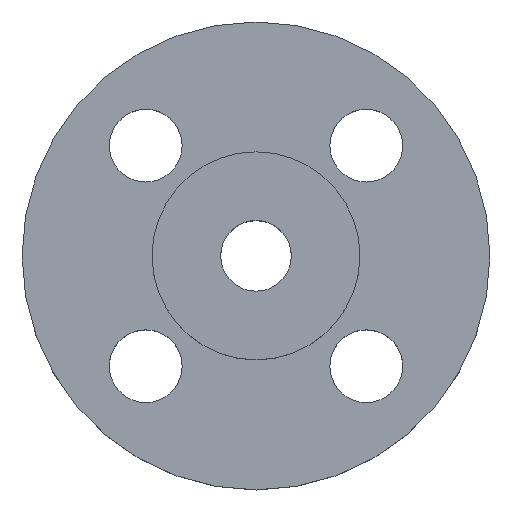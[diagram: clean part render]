
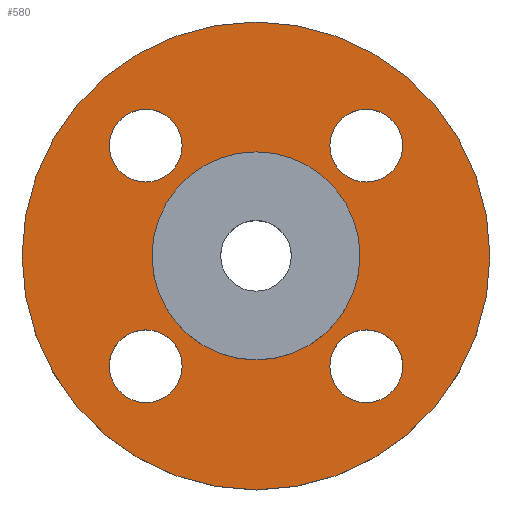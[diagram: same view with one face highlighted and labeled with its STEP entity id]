
A CAD part, top view. The second image highlights one B-rep face of the part: STEP entity #580.
In plain terms, the highlighted planar face has unit normal (0, 0, 1).
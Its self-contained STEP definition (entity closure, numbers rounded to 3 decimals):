
#23 = AXIS2_PLACEMENT_3D ( 'NONE', #320, #318, #317 ) ;
#24 = CIRCLE ( 'NONE', #23, 18.5 ) ;
#29 = CIRCLE ( 'NONE', #129, 7. ) ;
#50 = AXIS2_PLACEMENT_3D ( 'NONE', #97, #208, #207 ) ;
#54 = AXIS2_PLACEMENT_3D ( 'NONE', #350, #352, #332 ) ;
#58 = CIRCLE ( 'NONE', #54, 7. ) ;
#60 = AXIS2_PLACEMENT_3D ( 'NONE', #355, #356, #348 ) ;
#61 = CIRCLE ( 'NONE', #60, 7. ) ;
#62 = AXIS2_PLACEMENT_3D ( 'NONE', #479, #295, #430 ) ;
#65 = AXIS2_PLACEMENT_3D ( 'NONE', #358, #357, #354 ) ;
#68 = AXIS2_PLACEMENT_3D ( 'NONE', #126, #124, #123 ) ;
#69 = CIRCLE ( 'NONE', #68, 7. ) ;
#93 = CARTESIAN_POINT ( 'NONE',  ( 18.5, 0., 0. ) ) ;
#97 = CARTESIAN_POINT ( 'NONE',  ( 21.213, -21.213, 0. ) ) ;
#98 = DIRECTION ( 'NONE',  ( 1., 0., 0. ) ) ;
#99 = AXIS2_PLACEMENT_3D ( 'NONE', #119, #117, #98 ) ;
#117 = DIRECTION ( 'NONE',  ( 0., 0., 1. ) ) ;
#119 = CARTESIAN_POINT ( 'NONE',  ( 0., 0., 0. ) ) ;
#123 = DIRECTION ( 'NONE',  ( -1., 0., 0. ) ) ;
#124 = DIRECTION ( 'NONE',  ( 0., 0., -1. ) ) ;
#126 = CARTESIAN_POINT ( 'NONE',  ( 21.213, 21.213, 0. ) ) ;
#129 = AXIS2_PLACEMENT_3D ( 'NONE', #294, #757, #758 ) ;
#153 = CARTESIAN_POINT ( 'NONE',  ( -14.213, -21.213, 0. ) ) ;
#163 = CARTESIAN_POINT ( 'NONE',  ( -45., 0., 0. ) ) ;
#177 = CARTESIAN_POINT ( 'NONE',  ( 45., 0., 0. ) ) ;
#189 = EDGE_CURVE ( 'NONE', #618, #727, #305, .T. ) ;
#190 = CIRCLE ( 'NONE', #50, 7. ) ;
#207 = DIRECTION ( 'NONE',  ( -1., 0., 0. ) ) ;
#208 = DIRECTION ( 'NONE',  ( 0., 0., -1. ) ) ;
#219 = CARTESIAN_POINT ( 'NONE',  ( -28.213, 21.213, 0. ) ) ;
#223 = CARTESIAN_POINT ( 'NONE',  ( 28.213, -21.213, 0. ) ) ;
#230 = CARTESIAN_POINT ( 'NONE',  ( -14.213, 21.213, 0. ) ) ;
#236 = FACE_BOUND ( 'NONE', #611, .T. ) ;
#250 = CIRCLE ( 'NONE', #682, 7. ) ;
#256 = CARTESIAN_POINT ( 'NONE',  ( 28.213, 21.213, 0. ) ) ;
#258 = CARTESIAN_POINT ( 'NONE',  ( 14.213, 21.213, 0. ) ) ;
#264 = CIRCLE ( 'NONE', #328, 45. ) ;
#277 = CARTESIAN_POINT ( 'NONE',  ( -18.5, 0., 0. ) ) ;
#278 = CARTESIAN_POINT ( 'NONE',  ( -28.213, -21.213, 0. ) ) ;
#294 = CARTESIAN_POINT ( 'NONE',  ( -21.213, 21.213, 0. ) ) ;
#295 = DIRECTION ( 'NONE',  ( 0., 0., -1. ) ) ;
#299 = CIRCLE ( 'NONE', #99, 45. ) ;
#305 = CIRCLE ( 'NONE', #765, 18.5 ) ;
#316 = CIRCLE ( 'NONE', #327, 7. ) ;
#317 = DIRECTION ( 'NONE',  ( -1., 0., 0. ) ) ;
#318 = DIRECTION ( 'NONE',  ( 0., 0., -1. ) ) ;
#320 = CARTESIAN_POINT ( 'NONE',  ( 0., 0., 0. ) ) ;
#327 = AXIS2_PLACEMENT_3D ( 'NONE', #478, #435, #463 ) ;
#328 = AXIS2_PLACEMENT_3D ( 'NONE', #565, #899, #900 ) ;
#330 = CIRCLE ( 'NONE', #62, 7. ) ;
#332 = DIRECTION ( 'NONE',  ( -1., 0., 0. ) ) ;
#346 = EDGE_CURVE ( 'NONE', #774, #817, #264, .T. ) ;
#348 = DIRECTION ( 'NONE',  ( -1., 0., 0. ) ) ;
#350 = CARTESIAN_POINT ( 'NONE',  ( 21.213, 21.213, 0. ) ) ;
#352 = DIRECTION ( 'NONE',  ( 0., 0., -1. ) ) ;
#354 = DIRECTION ( 'NONE',  ( 1., 0., 0. ) ) ;
#355 = CARTESIAN_POINT ( 'NONE',  ( -21.213, -21.213, 0. ) ) ;
#356 = DIRECTION ( 'NONE',  ( 0., 0., -1. ) ) ;
#357 = DIRECTION ( 'NONE',  ( 0., 0., 1. ) ) ;
#358 = CARTESIAN_POINT ( 'NONE',  ( 0., 0., 0. ) ) ;
#360 = PLANE ( 'NONE',  #65 ) ;
#364 = FACE_OUTER_BOUND ( 'NONE', #603, .T. ) ;
#366 = FACE_BOUND ( 'NONE', #813, .T. ) ;
#367 = FACE_BOUND ( 'NONE', #820, .T. ) ;
#368 = FACE_BOUND ( 'NONE', #633, .T. ) ;
#397 = CARTESIAN_POINT ( 'NONE',  ( 14.213, -21.213, 0. ) ) ;
#401 = VERTEX_POINT ( 'NONE', #397 ) ;
#417 = CARTESIAN_POINT ( 'NONE',  ( 21.213, -21.213, 0. ) ) ;
#430 = DIRECTION ( 'NONE',  ( -1., 0., 0. ) ) ;
#433 = CARTESIAN_POINT ( 'NONE',  ( 0., 0., 0. ) ) ;
#435 = DIRECTION ( 'NONE',  ( 0., 0., -1. ) ) ;
#439 = DIRECTION ( 'NONE',  ( 0., 0., -1. ) ) ;
#441 = DIRECTION ( 'NONE',  ( -1., 0., 0. ) ) ;
#463 = DIRECTION ( 'NONE',  ( -1., 0., 0. ) ) ;
#478 = CARTESIAN_POINT ( 'NONE',  ( -21.213, 21.213, 0. ) ) ;
#479 = CARTESIAN_POINT ( 'NONE',  ( -21.213, -21.213, 0. ) ) ;
#483 = EDGE_CURVE ( 'NONE', #401, #656, #250, .T. ) ;
#491 = DIRECTION ( 'NONE',  ( -1., 0., 0. ) ) ;
#492 = DIRECTION ( 'NONE',  ( 0., 0., -1. ) ) ;
#523 = EDGE_CURVE ( 'NONE', #648, #661, #316, .T. ) ;
#535 = EDGE_CURVE ( 'NONE', #616, #828, #330, .T. ) ;
#565 = CARTESIAN_POINT ( 'NONE',  ( 0., 0., 0. ) ) ;
#579 = EDGE_CURVE ( 'NONE', #661, #648, #29, .T. ) ;
#580 = ADVANCED_FACE ( 'NONE', ( #759, #236, #368, #367, #366, #364 ), #360, .T. ) ;
#581 = EDGE_CURVE ( 'NONE', #828, #616, #61, .T. ) ;
#583 = EDGE_CURVE ( 'NONE', #628, #630, #58, .T. ) ;
#584 = EDGE_CURVE ( 'NONE', #727, #618, #24, .T. ) ;
#603 = EDGE_LOOP ( 'NONE', ( #694, #695 ) ) ;
#611 = EDGE_LOOP ( 'NONE', ( #685, #687 ) ) ;
#616 = VERTEX_POINT ( 'NONE', #278 ) ;
#618 = VERTEX_POINT ( 'NONE', #277 ) ;
#628 = VERTEX_POINT ( 'NONE', #256 ) ;
#630 = VERTEX_POINT ( 'NONE', #258 ) ;
#633 = EDGE_LOOP ( 'NONE', ( #688, #689 ) ) ;
#639 = EDGE_LOOP ( 'NONE', ( #683, #684 ) ) ;
#648 = VERTEX_POINT ( 'NONE', #230 ) ;
#656 = VERTEX_POINT ( 'NONE', #223 ) ;
#661 = VERTEX_POINT ( 'NONE', #219 ) ;
#682 = AXIS2_PLACEMENT_3D ( 'NONE', #417, #492, #491 ) ;
#683 = ORIENTED_EDGE ( 'NONE', *, *, #725, .T. ) ;
#684 = ORIENTED_EDGE ( 'NONE', *, *, #483, .T. ) ;
#685 = ORIENTED_EDGE ( 'NONE', *, *, #581, .T. ) ;
#687 = ORIENTED_EDGE ( 'NONE', *, *, #535, .T. ) ;
#688 = ORIENTED_EDGE ( 'NONE', *, *, #523, .T. ) ;
#689 = ORIENTED_EDGE ( 'NONE', *, *, #579, .T. ) ;
#690 = ORIENTED_EDGE ( 'NONE', *, *, #583, .T. ) ;
#691 = ORIENTED_EDGE ( 'NONE', *, *, #710, .T. ) ;
#692 = ORIENTED_EDGE ( 'NONE', *, *, #584, .T. ) ;
#693 = ORIENTED_EDGE ( 'NONE', *, *, #189, .T. ) ;
#694 = ORIENTED_EDGE ( 'NONE', *, *, #346, .T. ) ;
#695 = ORIENTED_EDGE ( 'NONE', *, *, #719, .T. ) ;
#710 = EDGE_CURVE ( 'NONE', #630, #628, #69, .T. ) ;
#719 = EDGE_CURVE ( 'NONE', #817, #774, #299, .T. ) ;
#725 = EDGE_CURVE ( 'NONE', #656, #401, #190, .T. ) ;
#727 = VERTEX_POINT ( 'NONE', #93 ) ;
#757 = DIRECTION ( 'NONE',  ( 0., 0., -1. ) ) ;
#758 = DIRECTION ( 'NONE',  ( -1., 0., 0. ) ) ;
#759 = FACE_BOUND ( 'NONE', #639, .T. ) ;
#765 = AXIS2_PLACEMENT_3D ( 'NONE', #433, #439, #441 ) ;
#774 = VERTEX_POINT ( 'NONE', #177 ) ;
#813 = EDGE_LOOP ( 'NONE', ( #692, #693 ) ) ;
#817 = VERTEX_POINT ( 'NONE', #163 ) ;
#820 = EDGE_LOOP ( 'NONE', ( #690, #691 ) ) ;
#828 = VERTEX_POINT ( 'NONE', #153 ) ;
#899 = DIRECTION ( 'NONE',  ( 0., 0., 1. ) ) ;
#900 = DIRECTION ( 'NONE',  ( 1., 0., 0. ) ) ;
